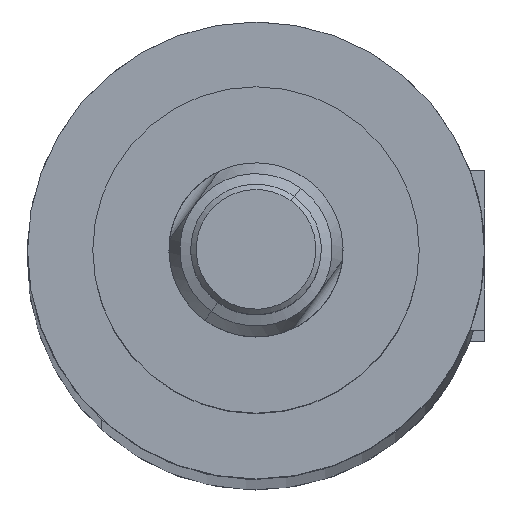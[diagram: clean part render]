
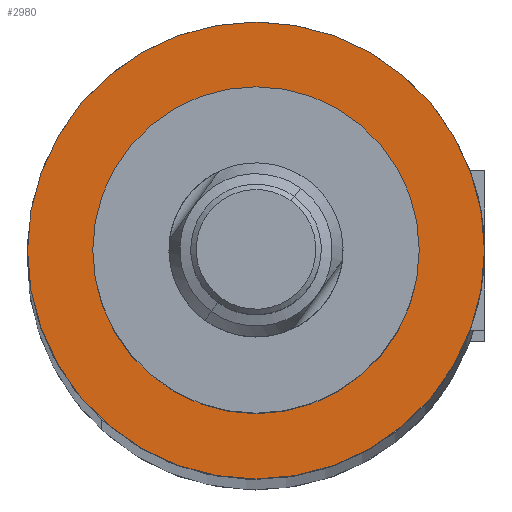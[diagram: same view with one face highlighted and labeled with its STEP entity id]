
A CAD part, top view. The second image highlights one B-rep face of the part: STEP entity #2980.
In plain terms, the highlighted planar face has unit normal (0, 0, 1) as drawn and (0, 0, -1) by its records, which use the part's own axes.
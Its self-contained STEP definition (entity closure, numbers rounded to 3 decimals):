
#256 = EDGE_CURVE ( 'NONE', #1100, #5245, #4377, .T. ) ;
#426 = DIRECTION ( 'NONE',  ( 1., 0., 0. ) ) ;
#642 = CARTESIAN_POINT ( 'NONE',  ( 21., 0., 15. ) ) ;
#757 = CARTESIAN_POINT ( 'NONE',  ( 0., 0., 15. ) ) ;
#944 = CARTESIAN_POINT ( 'NONE',  ( -15., 0., 15. ) ) ;
#1051 = EDGE_LOOP ( 'NONE', ( #3675, #4682 ) ) ;
#1088 = AXIS2_PLACEMENT_3D ( 'NONE', #757, #3822, #1202 ) ;
#1100 = VERTEX_POINT ( 'NONE', #944 ) ;
#1181 = EDGE_LOOP ( 'NONE', ( #1759, #1561 ) ) ;
#1202 = DIRECTION ( 'NONE',  ( 1., 0., 0. ) ) ;
#1264 = CIRCLE ( 'NONE', #2339, 21. ) ;
#1306 = DIRECTION ( 'NONE',  ( 1., 0., 0. ) ) ;
#1310 = CARTESIAN_POINT ( 'NONE',  ( 0., 0., 15. ) ) ;
#1322 = DIRECTION ( 'NONE',  ( 0., 0., 1. ) ) ;
#1351 = CARTESIAN_POINT ( 'NONE',  ( 0., 0., 15. ) ) ;
#1420 = AXIS2_PLACEMENT_3D ( 'NONE', #1351, #1322, #1306 ) ;
#1561 = ORIENTED_EDGE ( 'NONE', *, *, #5473, .F. ) ;
#1591 = CARTESIAN_POINT ( 'NONE',  ( 0., 0., 15. ) ) ;
#1759 = ORIENTED_EDGE ( 'NONE', *, *, #4136, .F. ) ;
#2045 = DIRECTION ( 'NONE',  ( 1., 0., 0. ) ) ;
#2103 = CIRCLE ( 'NONE', #3187, 15. ) ;
#2339 = AXIS2_PLACEMENT_3D ( 'NONE', #1591, #4637, #2045 ) ;
#2761 = CARTESIAN_POINT ( 'NONE',  ( 15., 0., 15. ) ) ;
#2980 = ADVANCED_FACE ( 'NONE', ( #4616, #4744 ), #5276, .F. ) ;
#3073 = DIRECTION ( 'NONE',  ( 0., 0., 1. ) ) ;
#3187 = AXIS2_PLACEMENT_3D ( 'NONE', #5602, #3073, #426 ) ;
#3360 = CARTESIAN_POINT ( 'NONE',  ( -21., 0., 15. ) ) ;
#3675 = ORIENTED_EDGE ( 'NONE', *, *, #256, .T. ) ;
#3822 = DIRECTION ( 'NONE',  ( 0., 0., 1. ) ) ;
#4136 = EDGE_CURVE ( 'NONE', #5432, #5315, #1264, .T. ) ;
#4377 = CIRCLE ( 'NONE', #1420, 15. ) ;
#4616 = FACE_OUTER_BOUND ( 'NONE', #1181, .T. ) ;
#4637 = DIRECTION ( 'NONE',  ( 0., 0., 1. ) ) ;
#4682 = ORIENTED_EDGE ( 'NONE', *, *, #4819, .T. ) ;
#4744 = FACE_BOUND ( 'NONE', #1051, .T. ) ;
#4805 = AXIS2_PLACEMENT_3D ( 'NONE', #1310, #4992, #4910 ) ;
#4819 = EDGE_CURVE ( 'NONE', #5245, #1100, #2103, .T. ) ;
#4910 = DIRECTION ( 'NONE',  ( 1., 0., 0. ) ) ;
#4992 = DIRECTION ( 'NONE',  ( 0., 0., 1. ) ) ;
#5104 = CIRCLE ( 'NONE', #1088, 21. ) ;
#5245 = VERTEX_POINT ( 'NONE', #2761 ) ;
#5276 = PLANE ( 'NONE',  #4805 ) ;
#5315 = VERTEX_POINT ( 'NONE', #642 ) ;
#5432 = VERTEX_POINT ( 'NONE', #3360 ) ;
#5473 = EDGE_CURVE ( 'NONE', #5315, #5432, #5104, .T. ) ;
#5602 = CARTESIAN_POINT ( 'NONE',  ( 0., 0., 15. ) ) ;
